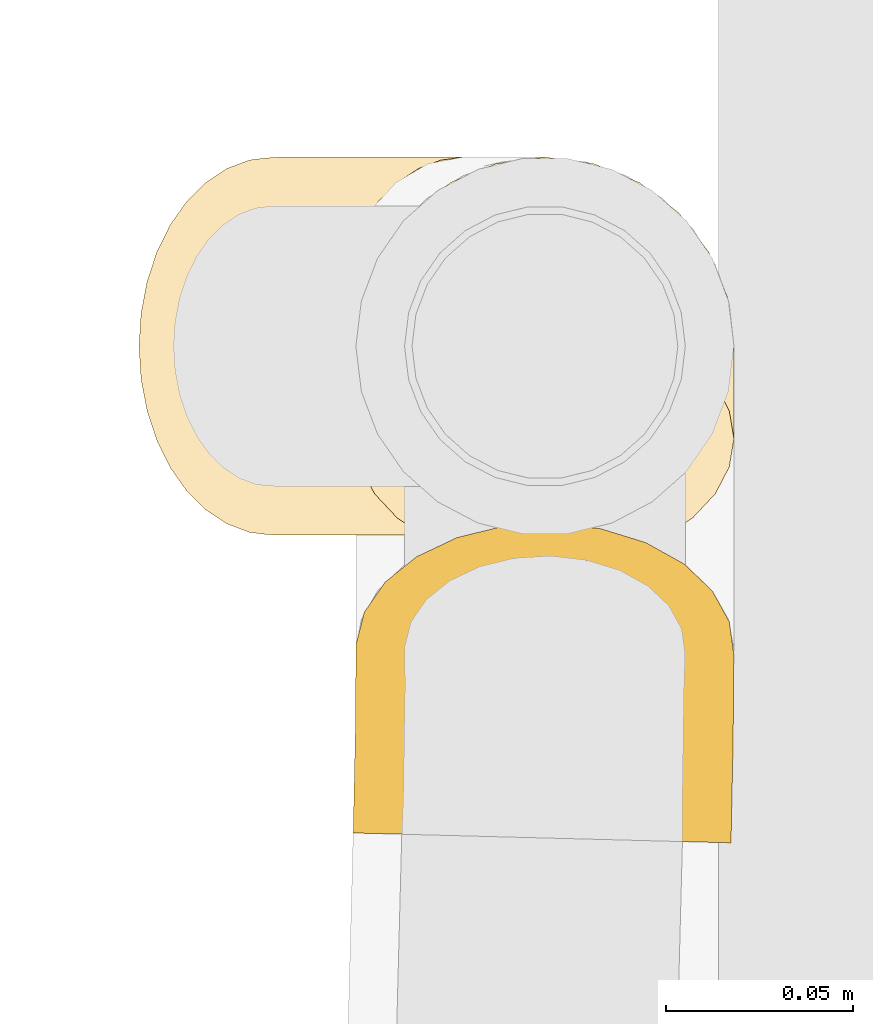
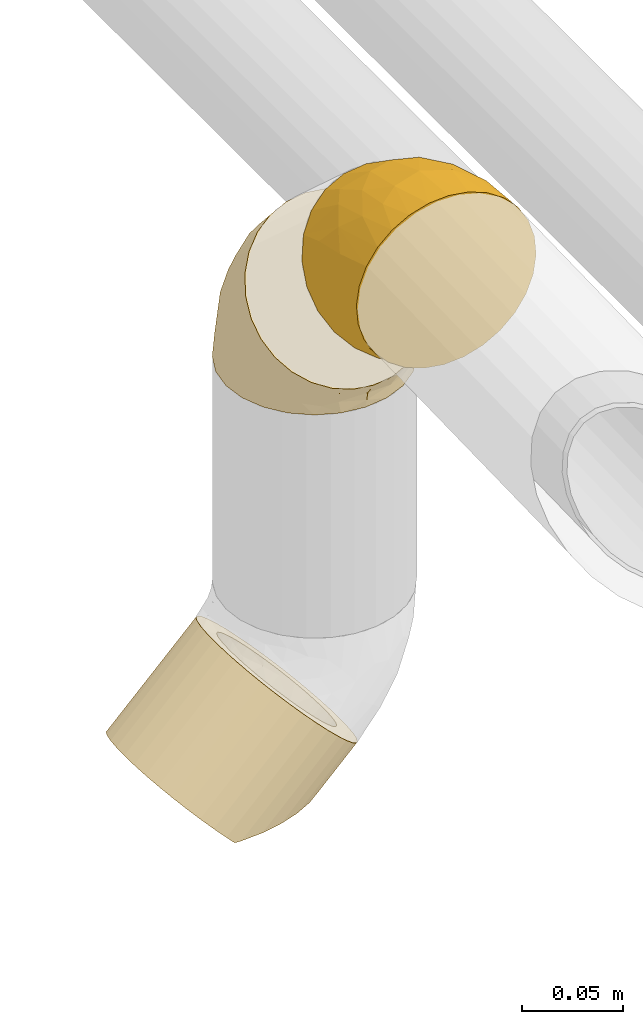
# One storey, part 39 of 156: 3 coverings.
"""IFC2X3 building model written with IfcOpenShell, lengths in millimetres."""

from ifc_helpers import new_model, entity, si_unit, converted_unit, derived_unit, direction, frame, origin_with_axes, place, context, subcontext, project, spatial, open_shell, faceted_brep, surface_model, source, transform, mapped, element, save


model = new_model("IFC2X3")

# Units and contexts
model_context = context("Model", 3, precision=0.01, world=frame((0.0, 4.29681676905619e-09, 0.0)), true_north=direction((4.01073788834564e-13, 1.0)))
plan_context = context("Plan", 3, precision=0.01, world=frame((0.0, 4.29681676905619e-09, 0.0)), true_north=direction((4.01073788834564e-13, 1.0)))
body_context = subcontext(model_context, "Body", "Model", "MODEL_VIEW")
ifc_project = project(units=[converted_unit("PLANEANGLEUNIT", "DEGREE", entity("IfcPositiveLengthMeasure", 0.0174532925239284), si_unit("PLANEANGLEUNIT", "RADIAN"), dimensions=[0, 0, 0, 0, 0, 0, 0]), si_unit("AREAUNIT", "SQUARE_METRE"), si_unit("LENGTHUNIT", "METRE", prefix="MILLI"), si_unit("MASSUNIT", "GRAM", prefix="KILO"), si_unit("POWERUNIT", "WATT"), si_unit("PRESSUREUNIT", "PASCAL", prefix="KILO"), si_unit("FORCEUNIT", "NEWTON", prefix="KILO"), si_unit("ELECTRICVOLTAGEUNIT", "VOLT"), si_unit("ELECTRICCURRENTUNIT", "AMPERE"), si_unit("THERMODYNAMICTEMPERATUREUNIT", "DEGREE_CELSIUS"), si_unit("TIMEUNIT", "SECOND"), si_unit("VOLUMEUNIT", "CUBIC_METRE"), derived_unit("LINEARVELOCITYUNIT", [(si_unit("LENGTHUNIT", "METRE"), 1), (si_unit("TIMEUNIT", "SECOND"), -1)]), derived_unit("VOLUMETRICFLOWRATEUNIT", [(si_unit("VOLUMEUNIT", "CUBIC_METRE"), 1), (si_unit("TIMEUNIT", "SECOND"), -1)]), derived_unit("THERMALTRANSMITTANCEUNIT", [(si_unit("POWERUNIT", "WATT"), 1), (si_unit("THERMODYNAMICTEMPERATUREUNIT", "KELVIN"), -1), (si_unit("AREAUNIT", "SQUARE_METRE"), -1)]), derived_unit("SOUNDPRESSUREUNIT", [(si_unit("PRESSUREUNIT", "PASCAL"), 1)])], contexts=[model_context, plan_context])

# Site, building, storey
site_placement = place(None, frame((0.0, -4.29681676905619e-09, 0.0), z_axis=(0.0, 0.0, 1.0), x_axis=(1.0, 0.0, 0.0)))
site = spatial("IfcSite", under=ifc_project, at=site_placement, CompositionType="ELEMENT")
building_placement = place(site_placement, frame((0.0, 4.29681676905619e-09, 0.0), z_axis=(0.0, 0.0, 1.0), x_axis=(1.0, 0.0, 0.0)))
building = spatial("IfcBuilding", under=site, at=building_placement, Name="mc-building", CompositionType="ELEMENT")
storey_placement = place(building_placement, frame((0.0, 0.0, 205200.0), z_axis=(0.0, 0.0, 1.0), x_axis=(1.0, 0.0, 0.0)))
storey = spatial("IfcBuildingStorey", under=building, at=storey_placement, Name="Nivå D + 1,2 m", CompositionType="ELEMENT", Elevation=205200.0)

# Coverings
shared_shape_1 = source(origin_with_axes(), body_context, "Body", "SurfaceModel", [
    surface_model("IfcShellBasedSurfaceModel", [(-14.21216, 57.73674, 11.24292), (-14.2142, 57.73858, -11.23089), (-15.15309, 58.58587, 0.0), (-6.9692, 51.20041, 31.49394), (-11.43748, 55.23276, 21.91909), (6.07652, 39.42744, 45.50245), (14.00003, 32.27696, 49.23533), (-1.03194, 45.8424, 39.48835), (22.33777, 24.75266, -50.5), (-6.97811, 51.20846, -31.47888), (-11.44294, 55.23768, -21.90382), (-1.04312, 45.85248, -39.47635), (6.06518, 39.43768, -45.49509), (13.9911, 32.28502, -49.23258), (22.33777, 24.75266, 50.5), (30.68443, 17.2203, 49.23258), (38.61035, 10.06765, 45.49509), (58.88769, -8.23142, -11.24292), (51.65365, -1.70313, 31.47888), (56.11847, -5.73236, 21.90382), (45.71865, 3.65284, 39.47635), (58.88973, -8.23326, 11.23089), (38.59901, 10.07788, -45.50245), (51.64474, -1.69509, -31.49394), (45.70747, 3.66293, -39.48835), (30.6755, 17.22836, -49.23533), (56.11301, -5.72744, -21.91909), (59.82862, -9.08055, 0.0), (-33.34172, 25.25, -43.73428), (-33.34172, 50.5, 0.0), (-33.34172, 48.77925, -13.07036), (-33.34172, 43.73428, -25.25), (-33.34172, 13.07036, 48.77925), (-33.34172, 35.70889, -35.70889), (-33.34172, 13.07036, -48.77925), (-33.34172, 48.77925, 13.07036), (-33.34172, 35.70889, 35.70889), (-33.34172, 43.73428, 25.25), (-33.34172, 25.25, 43.73428), (-33.34172, 0.0, 50.5), (-33.34172, 0.0, -50.5), (-33.34172, -35.70889, -35.70889), (-33.34172, -13.07036, -48.77925), (-33.34172, -25.25, -43.73428), (-33.34172, -25.25, 43.73428), (-33.34172, -43.73428, -25.25), (-33.34172, -48.77925, -13.07036), (-33.34172, -50.5, 0.0), (-33.34172, -35.70889, 35.70889), (-33.34172, -13.07036, 48.77925), (-33.34172, -43.73428, 25.25), (-33.34172, -48.77925, 13.07036), (28.92243, -17.8034, 34.63065), (1.20562, -45.65128, 0.0), (-0.61382, -45.20417, 9.59586), (-9.46137, -38.24931, 29.84171), (-7.16937, -44.13034, 18.54548), (15.53161, -33.29628, 25.112), (3.79099, -8.52759, 47.75959), (22.34991, -1.32639, 46.58985), (3.15449, -26.15535, 38.62048), (4.01451, -17.67675, 43.92184), (-14.7023, -18.81001, 46.08776), (33.08347, -31.47978, 0.0), (36.28244, -26.31967, 15.88754), (-12.6959, 2.89764, 50.5), (38.25088, -19.14275, 26.03364), (12.76677, -28.75917, 32.62983), (15.15633, -38.2489, 15.0781), (27.00146, -8.60124, 41.9572), (6.35461, 11.36666, 50.5), (-13.92723, 49.25426, 26.87553), (-11.64285, 42.23591, 35.7157), (-24.4333, 31.64829, 40.06434), (-15.96939, 17.35502, 48.28439), (-1.13508, 26.37007, 47.66853), (-13.49218, 31.14301, 42.76423), (-25.63247, 49.41514, 14.81209), (-23.38923, 52.61255, 0.0), (-28.36548, 51.55627, 0.0), (-18.24823, 52.20833, 16.68598), (-20.04632, 45.62317, 26.87553), (-23.68686, 23.31433, 45.25019), (-25.77538, 40.19806, 31.60803), (-25.92663, 45.58101, 23.5723), (-4.35741, 36.56369, 42.76423), (-19.27116, 55.59921, 0.0), (-18.59309, 37.84603, 36.37919), (-4.36667, 36.57591, -42.7546), (-11.65037, 42.24726, -35.70208), (-1.14417, 26.38063, -47.6637), (-20.04991, 45.63211, -26.86021), (-25.63296, 49.42073, -14.79417), (-18.25022, 52.21281, -16.67216), (-26.30966, 40.77939, -30.74245), (-12.6959, 2.89764, -50.5), (-13.49908, 31.15671, -42.7546), (-15.97704, 17.37143, -48.2789), (-24.12317, 32.59857, -39.38506), (-20.77243, 25.13196, -44.6609), (-19.09244, 39.10397, -35.02576), (-13.933, 49.26196, -26.86021), (-27.87896, 45.75604, -22.42031), (6.35461, 11.36666, -50.5), (-14.7023, -18.81001, -46.08776), (3.12687, -26.16383, -38.62165), (-9.47125, -38.2511, -29.84209), (28.91011, -17.7964, -34.6441), (26.99069, -8.59088, -41.96704), (4.01516, -17.67696, -43.9216), (12.76819, -28.74936, -32.63974), (-0.57123, -45.19209, -9.59829), (12.88928, 4.37142, -49.61481), (3.79099, -8.52759, -47.75959), (-7.15807, -44.128, -18.54513), (22.59597, 0.69753, -47.18135), (15.52696, -33.289, -25.12692), (15.1647, -38.23732, -15.10155), (36.27777, -26.31748, -15.90094), (38.24078, -19.13974, -26.04778)], [open_shell([[[0, 1, 2]], [[3, 0, 4]], [[5, 6, 7]], [[7, 6, 0]], [[0, 3, 7]], [[8, 0, 6]], [[0, 9, 10]], [[10, 1, 0]], [[11, 9, 12]], [[8, 13, 12]], [[9, 8, 12]], [[8, 9, 0]], [[6, 14, 8]], [[14, 15, 16]], [[17, 14, 16]], [[18, 19, 16]], [[16, 19, 17]], [[16, 20, 18]], [[17, 19, 21]], [[22, 23, 24]], [[23, 22, 25]], [[25, 14, 26]], [[23, 25, 26]], [[14, 17, 26]], [[21, 27, 17]], [[14, 25, 8]], [[28, 29, 30]], [[28, 30, 31]], [[29, 28, 32]], [[28, 31, 33]], [[32, 28, 34]], [[35, 36, 37]], [[36, 35, 32]], [[36, 32, 38]], [[35, 29, 32]], [[34, 39, 32]], [[34, 40, 39]], [[41, 40, 42]], [[41, 42, 43]], [[44, 41, 45]], [[41, 44, 39]], [[46, 47, 45]], [[44, 47, 48]], [[49, 39, 44]], [[50, 47, 51]], [[47, 50, 48]], [[45, 47, 44]], [[39, 40, 41]], [[52, 18, 20]], [[47, 53, 54]], [[50, 55, 48]], [[56, 57, 55]], [[15, 58, 59]], [[60, 61, 62]], [[63, 21, 64]], [[60, 44, 48]], [[49, 65, 39]], [[65, 49, 58]], [[44, 62, 49]], [[66, 57, 64]], [[55, 60, 48]], [[60, 67, 52]], [[64, 68, 63]], [[57, 56, 68]], [[52, 20, 69]], [[66, 64, 19]], [[66, 18, 52]], [[21, 63, 27]], [[61, 59, 58]], [[15, 59, 16]], [[50, 51, 56]], [[55, 57, 67]], [[69, 20, 16]], [[14, 70, 15]], [[70, 65, 58]], [[58, 15, 70]], [[60, 52, 69]], [[59, 69, 16]], [[61, 58, 62]], [[57, 68, 64]], [[56, 55, 50]], [[64, 21, 19]], [[56, 54, 68]], [[54, 51, 47]], [[68, 54, 63]], [[51, 54, 56]], [[63, 54, 53]], [[60, 62, 44]], [[58, 49, 62]], [[60, 69, 61]], [[59, 61, 69]], [[18, 66, 19]], [[66, 52, 67]], [[55, 67, 60]], [[66, 67, 57]], [[71, 72, 3]], [[32, 39, 65]], [[38, 73, 36]], [[74, 75, 76]], [[77, 78, 79]], [[4, 0, 80]], [[79, 35, 77]], [[79, 29, 35]], [[77, 81, 80]], [[76, 73, 82]], [[36, 73, 83]], [[83, 81, 84]], [[35, 37, 84]], [[32, 65, 74]], [[75, 74, 70]], [[72, 71, 81]], [[5, 7, 85]], [[5, 85, 75]], [[7, 3, 72]], [[14, 6, 70]], [[0, 86, 80]], [[37, 36, 83]], [[3, 4, 71]], [[32, 74, 82]], [[78, 77, 80]], [[70, 6, 75]], [[70, 74, 65]], [[81, 71, 80]], [[81, 83, 87]], [[85, 72, 76]], [[75, 85, 76]], [[5, 75, 6]], [[80, 71, 4]], [[72, 85, 7]], [[82, 73, 38]], [[76, 72, 87]], [[87, 83, 73]], [[81, 77, 84]], [[76, 87, 73]], [[81, 87, 72]], [[32, 82, 38]], [[76, 82, 74]], [[35, 84, 77]], [[37, 83, 84]], [[86, 0, 2]], [[86, 78, 80]], [[88, 89, 11]], [[13, 90, 12]], [[91, 92, 93]], [[30, 79, 92]], [[31, 94, 33]], [[40, 34, 95]], [[89, 88, 96]], [[97, 96, 90]], [[92, 78, 93]], [[33, 94, 98]], [[98, 96, 99]], [[2, 1, 86]], [[96, 98, 100]], [[1, 10, 93]], [[90, 88, 12]], [[9, 101, 10]], [[9, 11, 89]], [[30, 92, 102]], [[28, 33, 98]], [[101, 93, 10]], [[91, 101, 89]], [[99, 34, 28]], [[88, 11, 12]], [[13, 8, 103]], [[97, 103, 95]], [[95, 34, 97]], [[88, 90, 96]], [[102, 91, 94]], [[13, 103, 90]], [[89, 101, 9]], [[1, 93, 86]], [[93, 101, 91]], [[103, 97, 90]], [[102, 94, 31]], [[91, 89, 100]], [[100, 98, 94]], [[96, 97, 99]], [[91, 100, 94]], [[96, 100, 89]], [[30, 102, 31]], [[91, 102, 92]], [[34, 99, 97]], [[28, 98, 99]], [[93, 78, 86]], [[79, 30, 29]], [[79, 78, 92]], [[43, 42, 104]], [[105, 106, 41]], [[40, 95, 42]], [[107, 108, 24]], [[109, 105, 104]], [[105, 110, 106]], [[46, 111, 47]], [[95, 112, 113]], [[114, 46, 45]], [[108, 115, 22]], [[43, 105, 41]], [[45, 106, 114]], [[112, 115, 113]], [[25, 22, 115]], [[112, 95, 103]], [[114, 106, 116]], [[8, 25, 112]], [[41, 106, 45]], [[107, 24, 23]], [[117, 116, 118]], [[110, 105, 107]], [[113, 42, 95]], [[46, 114, 111]], [[108, 22, 24]], [[114, 116, 117]], [[26, 118, 119]], [[17, 27, 63]], [[17, 63, 118]], [[108, 109, 115]], [[110, 119, 116]], [[63, 53, 111]], [[17, 118, 26]], [[23, 26, 119]], [[112, 25, 115]], [[107, 105, 108]], [[104, 105, 43]], [[112, 103, 8]], [[63, 117, 118]], [[111, 114, 117]], [[63, 111, 117]], [[111, 53, 47]], [[42, 113, 104]], [[104, 113, 109]], [[115, 109, 113]], [[108, 105, 109]], [[116, 119, 118]], [[23, 119, 107]], [[119, 110, 107]], [[106, 110, 116]]])]),
])
covering_1_placement = place(storey_placement, frame((347962.03069, 461168.55164, 4269.91381999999), z_axis=(1.0, 0.0, 0.0), x_axis=(0.0, 0.0, 1.0)))
element("IfcCovering", 1, at=covering_1_placement, inside=storey, Name="BI17T - Cellegummi 13 mm SPV fett", PredefinedType="INSULATION", context=body_context, shape_type="MappedRepresentation", body=[
    mapped(shared_shape_1, transform((0.0, 0.0, 0.0), scale=1.0)),
])
shared_shape_2 = source(origin_with_axes(), body_context, "Body", "SurfaceModel", [
    surface_model("IfcShellBasedSurfaceModel", [(-11.58393, 55.87699, 11.24292), (-11.58577, 55.87902, -11.23089), (-12.43341, 56.81759, 0.0), (-5.04485, 48.63651, 31.49394), (-9.07889, 53.10325, 21.91909), (6.73306, 35.59525, 45.50245), (13.88655, 27.67445, 49.23533), (0.31541, 42.70128, 39.48835), (-5.0529, 48.64542, -31.47888), (-9.08382, 53.10871, -21.90382), (0.30532, 42.71245, -39.47635), (6.72282, 35.60658, -45.49509), (13.87848, 27.68338, -49.23258), (21.41401, 19.33957, -50.5), (21.41401, 19.33957, 50.5), (47.88091, -9.96628, 31.47888), (28.94953, 10.99576, 49.23258), (36.10519, 3.07255, 45.49509), (54.41378, -17.19989, 11.23089), (51.91183, -14.42958, 21.90382), (42.52269, -4.03331, 39.47635), (54.41194, -17.19785, -11.24292), (36.09495, 3.08389, -45.50245), (47.87286, -9.95737, -31.49394), (42.5126, -4.02214, -39.48835), (28.94146, 11.00469, -49.23533), (51.90691, -14.42412, -21.91909), (55.26143, -18.13845, 0.0), (-28.85444, 25.25, -43.73428), (-28.85444, 50.5, 0.0), (-28.85444, 48.77925, -13.07036), (-28.85444, 43.73428, -25.25), (-28.85444, 13.07036, 48.77925), (-28.85444, 35.70889, -35.70889), (-28.85444, 13.07036, -48.77925), (-28.85444, 48.77925, 13.07036), (-28.85444, 35.70889, 35.70889), (-28.85444, 43.73428, 25.25), (-28.85444, 25.25, 43.73428), (-28.85444, 0.0, 50.5), (-28.85444, 0.0, -50.5), (-28.85444, -35.70889, -35.70889), (-28.85444, -13.07036, -48.77925), (-28.85444, -25.25, -43.73428), (-28.85444, -25.25, 43.73428), (-28.85444, -43.73428, -25.25), (-28.85444, -48.77925, -13.07036), (-28.85444, -50.5, 0.0), (-28.85444, -35.70889, 35.70889), (-28.85444, -13.07036, 48.77925), (-28.85444, -43.73428, 25.25), (-28.85444, -48.77925, 13.07036), (25.99703, -22.11944, 34.85939), (1.56772, -46.7569, 0.0), (14.43845, -35.3902, 25.52218), (1.79972, -32.73809, 34.35406), (-7.30992, -40.48745, 27.30773), (30.17516, -35.75088, 0.0), (4.22961, -44.07654, 13.7674), (32.11233, -31.69491, 16.03951), (-4.95714, -7.24217, 49.36558), (12.09773, 3.21113, 49.91748), (-1.92427, 5.00167, 50.5), (9.22535, -21.47592, 41.53863), (13.61138, -8.08161, 47.06551), (-8.13538, -18.56536, 46.00306), (34.78482, -24.53447, 26.25239), (-21.87035, 50.56423, 9.56578), (-23.47301, 47.58914, 18.30444), (-17.86586, 49.96952, 16.68598), (-10.84824, 12.08074, 49.58783), (7.40121, 10.73079, 50.5), (-5.39451, 21.59804, 47.66853), (-7.00024, 32.43, 42.58209), (-18.0169, 29.34562, 41.97543), (-17.91593, 19.35085, 47.07305), (-21.22617, 42.85836, 28.09169), (-7.55759, 41.97318, 35.7157), (-14.04531, 46.15317, 27.16082), (-14.43003, 38.44507, 35.7157), (-21.59777, 36.84107, 35.25489), (-17.01093, 54.00539, 0.0), (-20.05725, 52.13388, 0.0), (-12.685, 3.00311, 50.5), (-23.57242, 51.48101, 0.0), (-2.79531, 34.54155, -42.7546), (-9.944, 40.56671, -35.70208), (-0.78514, 23.88602, -47.6637), (-22.20977, 48.44622, -16.78908), (-15.6977, 51.0436, -16.67216), (-24.45584, 51.31694, 0.0), (-15.38935, 2.50083, -50.5), (-22.97696, 44.37774, -25.10305), (-19.04105, 36.74531, -35.90999), (-11.23318, 30.21769, -42.7546), (-14.73177, 18.54529, -47.62164), (-19.45231, 26.01283, -43.80982), (7.40121, 10.73079, -50.5), (-17.05054, 45.00312, -26.86021), (-11.39892, 47.89927, -26.86021), (-1.92427, 5.00167, -50.5), (13.60673, -8.06863, -47.07082), (1.79381, -32.72707, -34.36723), (-4.95095, -7.23303, -49.3671), (25.99158, -22.10748, -34.87312), (-7.31837, -40.47966, -27.32204), (14.43391, -35.38253, -25.53719), (-8.1512, -18.55167, -46.01065), (9.2217, -21.46158, -41.54877), (12.09575, 3.21639, -49.91833), (32.10731, -31.69258, -16.05298), (4.20435, -44.08036, -13.77827), (34.77997, -24.52658, -26.2676)], [open_shell([[[0, 1, 2]], [[3, 0, 4]], [[5, 6, 7]], [[1, 0, 7]], [[0, 3, 7]], [[1, 7, 6]], [[1, 8, 9]], [[1, 6, 8]], [[10, 8, 11]], [[12, 11, 8]], [[13, 12, 8]], [[6, 13, 8]], [[6, 14, 13]], [[15, 14, 16]], [[15, 16, 17]], [[15, 18, 14]], [[19, 18, 15]], [[15, 17, 20]], [[18, 21, 13]], [[22, 23, 24]], [[22, 25, 13]], [[21, 23, 22]], [[26, 23, 21]], [[21, 22, 13]], [[18, 27, 21]], [[13, 14, 18]], [[28, 29, 30]], [[28, 30, 31]], [[29, 28, 32]], [[28, 31, 33]], [[32, 28, 34]], [[35, 36, 37]], [[36, 35, 32]], [[36, 32, 38]], [[35, 29, 32]], [[34, 39, 32]], [[34, 40, 39]], [[41, 40, 42]], [[41, 42, 43]], [[44, 41, 45]], [[41, 44, 39]], [[46, 47, 45]], [[44, 47, 48]], [[49, 39, 44]], [[50, 47, 51]], [[47, 50, 48]], [[45, 47, 44]], [[39, 40, 41]], [[20, 52, 15]], [[51, 47, 53]], [[54, 55, 56]], [[53, 57, 58]], [[55, 44, 48]], [[59, 54, 58]], [[60, 61, 62]], [[63, 64, 65]], [[60, 39, 49]], [[65, 64, 60]], [[50, 51, 58]], [[55, 52, 63]], [[54, 52, 55]], [[63, 65, 44]], [[59, 58, 57]], [[57, 18, 59]], [[19, 15, 66]], [[19, 66, 59]], [[16, 61, 64]], [[27, 18, 57]], [[20, 63, 52]], [[59, 66, 54]], [[58, 54, 56]], [[61, 14, 62]], [[17, 16, 64]], [[63, 17, 64]], [[56, 48, 50]], [[44, 55, 63]], [[17, 63, 20]], [[51, 53, 58]], [[52, 66, 15]], [[19, 59, 18]], [[49, 44, 65]], [[66, 52, 54]], [[39, 60, 62]], [[49, 65, 60]], [[48, 56, 55]], [[58, 56, 50]], [[64, 61, 60]], [[14, 61, 16]], [[67, 68, 69]], [[70, 62, 71]], [[72, 73, 74]], [[74, 75, 72]], [[69, 68, 76]], [[77, 73, 7]], [[78, 76, 79]], [[74, 73, 79]], [[79, 76, 80]], [[0, 2, 81]], [[71, 14, 6]], [[35, 68, 67]], [[3, 4, 78]], [[74, 79, 80]], [[3, 77, 7]], [[69, 78, 4]], [[74, 36, 38]], [[72, 6, 5]], [[7, 73, 5]], [[75, 70, 72]], [[4, 0, 69]], [[79, 77, 78]], [[67, 81, 82]], [[72, 70, 71]], [[78, 77, 3]], [[0, 81, 69]], [[68, 37, 76]], [[73, 77, 79]], [[69, 76, 78]], [[72, 71, 6]], [[80, 37, 36]], [[5, 73, 72]], [[38, 32, 75]], [[32, 39, 83]], [[67, 82, 84]], [[84, 29, 35]], [[37, 68, 35]], [[67, 69, 81]], [[35, 67, 84]], [[37, 80, 76]], [[74, 80, 36]], [[38, 75, 74]], [[70, 32, 83]], [[32, 70, 75]], [[62, 70, 83]], [[85, 86, 10]], [[12, 87, 11]], [[88, 82, 89]], [[30, 90, 88]], [[34, 91, 40]], [[33, 92, 93]], [[94, 95, 96]], [[12, 13, 97]], [[93, 98, 86]], [[88, 89, 98]], [[92, 88, 98]], [[91, 34, 95]], [[1, 9, 89]], [[33, 31, 92]], [[8, 99, 9]], [[8, 10, 86]], [[92, 30, 88]], [[33, 93, 96]], [[99, 89, 9]], [[98, 99, 86]], [[87, 95, 94]], [[85, 10, 11]], [[100, 87, 97]], [[87, 12, 97]], [[100, 95, 87]], [[85, 87, 94]], [[93, 86, 94]], [[86, 99, 8]], [[96, 34, 28]], [[89, 81, 1]], [[93, 94, 96]], [[95, 100, 91]], [[81, 89, 82]], [[81, 2, 1]], [[89, 99, 98]], [[87, 85, 11]], [[86, 85, 94]], [[93, 92, 98]], [[30, 92, 31]], [[90, 30, 29]], [[90, 82, 88]], [[34, 96, 95]], [[96, 28, 33]], [[25, 22, 101]], [[43, 102, 41]], [[100, 103, 40]], [[104, 24, 23]], [[105, 102, 106]], [[107, 101, 108]], [[47, 46, 53]], [[103, 100, 109]], [[110, 111, 106]], [[104, 112, 106]], [[108, 102, 43]], [[45, 105, 111]], [[43, 42, 107]], [[105, 41, 102]], [[103, 109, 101]], [[110, 112, 26]], [[108, 101, 22]], [[53, 46, 111]], [[108, 22, 24]], [[112, 104, 23]], [[102, 104, 106]], [[104, 108, 24]], [[111, 110, 57]], [[112, 23, 26]], [[21, 27, 57]], [[111, 57, 53]], [[21, 57, 110]], [[112, 110, 106]], [[107, 108, 43]], [[21, 110, 26]], [[107, 103, 101]], [[109, 13, 25]], [[45, 111, 46]], [[108, 104, 102]], [[107, 42, 103]], [[40, 103, 42]], [[111, 105, 106]], [[41, 105, 45]], [[13, 109, 100]], [[101, 109, 25]]])]),
])
covering_2_placement = place(storey_placement, frame((347962.03069, 461066.05164, 4362.41381999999), z_axis=(0.999238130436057, -0.0261470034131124, -0.0289740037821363), x_axis=(2.15974307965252e-07, -0.742392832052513, 0.669964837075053)))
element("IfcCovering", 2, at=covering_2_placement, inside=storey, Name="BI17T - Cellegummi 13 mm SPV fett", PredefinedType="INSULATION", context=body_context, shape_type="MappedRepresentation", body=[
    mapped(shared_shape_2, transform((0.0, 0.0, 0.0), scale=1.0)),
])
covering_3_placement = place(storey_placement, frame((347889.30448, 461168.55904, 3998.22696), z_axis=(-0.707106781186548, 0.0, 0.707106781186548), x_axis=(0.707106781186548, 0.0, 0.707106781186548)))
element("IfcCovering", 3, at=covering_3_placement, inside=storey, Name="BI17T - Cellegummi 13 mm SPV fett", PredefinedType="INSULATION", context=body_context, shape_type="Brep", body=[
    faceted_brep([(9.01926387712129, 36.9302907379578, -6.51180666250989), (2.5074572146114, 37.5, 0.0), (72.4, 37.5, 0.0), (72.4, 36.9302907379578, -6.51180666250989), (15.333212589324, 35.2384732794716, -12.8257553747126), (72.4, 35.2384732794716, -12.8257553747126), (21.2574572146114, 32.4759526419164, -18.75), (72.4, 32.4759526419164, -18.75), (26.6119925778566, 28.7266666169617, -24.1045353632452), (72.4, 28.7266666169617, -24.1045353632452), (31.2341238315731, 24.1045353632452, -28.7266666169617), (72.4, 24.1045353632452, -28.7266666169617), (34.9834098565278, 18.75, -32.4759526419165), (72.4, 18.75, -32.4759526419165), (37.745930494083, 12.8257553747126, -35.2384732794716), (72.4, 12.8257553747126, -35.2384732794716), (39.4377479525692, 6.51180666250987, -36.9302907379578), (72.4, 6.51180666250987, -36.9302907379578), (40.0074572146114, -6.88863824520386e-15, -37.5), (72.4, -6.88863824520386e-15, -37.5), (39.4377479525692, -6.51180666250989, -36.9302907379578), (72.4, -6.51180666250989, -36.9302907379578), (37.745930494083, -12.8257553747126, -35.2384732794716), (72.4, -12.8257553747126, -35.2384732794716), (34.9834098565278, -18.75, -32.4759526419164), (72.4, -18.75, -32.4759526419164), (31.2341238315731, -24.1045353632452, -28.7266666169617), (72.4, -24.1045353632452, -28.7266666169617), (26.6119925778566, -28.7266666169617, -24.1045353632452), (72.4, -28.7266666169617, -24.1045353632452), (21.2574572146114, -32.4759526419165, -18.75), (72.4, -32.4759526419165, -18.75), (15.333212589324, -35.2384732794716, -12.8257553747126), (72.4, -35.2384732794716, -12.8257553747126), (9.01926387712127, -36.9302907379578, -6.51180666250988), (72.4, -36.9302907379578, -6.51180666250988), (2.5074572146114, -37.5, 4.59242549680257e-15), (72.4, -37.5, 4.59242549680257e-15), (0.0, -37.2806259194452, 2.50745721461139), (72.4, -36.9302907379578, 6.5118066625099), (0.0, -36.9302907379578, 6.5118066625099), (72.4, -35.2384732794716, 12.8257553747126), (0.0, -35.2384732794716, 12.8257553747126), (72.4, -32.4759526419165, 18.75), (0.0, -32.4759526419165, 18.75), (72.4, -28.7266666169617, 24.1045353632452), (0.0, -28.7266666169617, 24.1045353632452), (72.4, -24.1045353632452, 28.7266666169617), (0.0, -24.1045353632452, 28.7266666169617), (72.4, -18.75, 32.4759526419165), (0.0, -18.75, 32.4759526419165), (72.4, -12.8257553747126, 35.2384732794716), (0.0, -12.8257553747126, 35.2384732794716), (72.4, -6.51180666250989, 36.9302907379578), (0.0, -6.51180666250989, 36.9302907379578), (72.4, 2.29621274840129e-15, 37.5), (0.0, 2.29621274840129e-15, 37.5), (72.4, 6.51180666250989, 36.9302907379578), (0.0, 6.51180666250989, 36.9302907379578), (72.4, 12.8257553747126, 35.2384732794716), (0.0, 12.8257553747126, 35.2384732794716), (72.4, 18.75, 32.4759526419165), (0.0, 18.75, 32.4759526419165), (72.4, 24.1045353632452, 28.7266666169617), (0.0, 24.1045353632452, 28.7266666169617), (72.4, 28.7266666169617, 24.1045353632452), (0.0, 28.7266666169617, 24.1045353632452), (72.4, 32.4759526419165, 18.75), (0.0, 32.4759526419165, 18.75), (72.4, 35.2384732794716, 12.8257553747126), (0.0, 35.2384732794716, 12.8257553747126), (72.4, 36.9302907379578, 6.51180666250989), (0.0, 36.9302907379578, 6.51180666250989), (0.0, 37.2806259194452, 2.5074572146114), (2.5074572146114, 50.5, 0.0), (11.2766901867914, 49.7327915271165, -8.76923297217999), (72.4, 49.7327915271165, -8.76923297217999), (72.4, 50.5, 0.0), (0.0, 50.2806259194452, 2.50745721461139), (72.4, 49.7327915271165, 8.76923297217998), (0.0, 49.7327915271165, 8.76923297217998), (72.4, 47.4544773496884, 17.2720172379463), (0.0, 47.4544773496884, 17.2720172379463), (72.4, 43.7342828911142, 25.25), (0.0, 43.7342828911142, 25.25), (72.4, 38.6852443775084, 32.4607742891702), (0.0, 38.6852443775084, 32.4607742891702), (72.4, 32.4607742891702, 38.6852443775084), (0.0, 32.4607742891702, 38.6852443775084), (72.4, 25.25, 43.7342828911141), (0.0, 25.25, 43.7342828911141), (72.4, 17.2720172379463, 47.4544773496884), (0.0, 17.2720172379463, 47.4544773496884), (72.4, 8.76923297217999, 49.7327915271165), (0.0, 8.76923297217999, 49.7327915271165), (72.4, 3.09223316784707e-15, 50.5), (0.0, 3.09223316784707e-15, 50.5), (72.4, -8.76923297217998, 49.7327915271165), (0.0, -8.76923297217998, 49.7327915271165), (72.4, -17.2720172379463, 47.4544773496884), (0.0, -17.2720172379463, 47.4544773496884), (72.4, -25.25, 43.7342828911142), (0.0, -25.25, 43.7342828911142), (72.4, -32.4607742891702, 38.6852443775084), (0.0, -32.4607742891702, 38.6852443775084), (72.4, -38.6852443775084, 32.4607742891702), (0.0, -38.6852443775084, 32.4607742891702), (72.4, -43.7342828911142, 25.25), (0.0, -43.7342828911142, 25.25), (72.4, -47.4544773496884, 17.2720172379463), (0.0, -47.4544773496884, 17.2720172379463), (72.4, -49.7327915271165, 8.76923297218), (0.0, -49.7327915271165, 8.76923297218), (2.50745721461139, -50.5, 6.18446633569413e-15), (0.0, -50.2806259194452, 2.5074572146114), (72.4, -50.5, 6.18446633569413e-15), (11.2766901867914, -49.7327915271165, -8.76923297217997), (72.4, -49.7327915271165, -8.76923297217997), (19.7794744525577, -47.4544773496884, -17.2720172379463), (72.4, -47.4544773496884, -17.2720172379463), (27.7574572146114, -43.7342828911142, -25.25), (72.4, -43.7342828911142, -25.25), (34.9682315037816, -38.6852443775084, -32.4607742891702), (72.4, -38.6852443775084, -32.4607742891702), (41.1927015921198, -32.4607742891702, -38.6852443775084), (72.4, -32.4607742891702, -38.6852443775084), (46.2417401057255, -25.25, -43.7342828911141), (72.4, -25.25, -43.7342828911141), (49.9619345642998, -17.2720172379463, -47.4544773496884), (72.4, -17.2720172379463, -47.4544773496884), (52.2402487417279, -8.76923297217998, -49.7327915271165), (72.4, -8.76923297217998, -49.7327915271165), (53.0074572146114, -9.2766995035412e-15, -50.5), (72.4, -9.2766995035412e-15, -50.5), (52.2402487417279, 8.76923297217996, -49.7327915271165), (72.4, 8.76923297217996, -49.7327915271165), (49.9619345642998, 17.2720172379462, -47.4544773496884), (72.4, 17.2720172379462, -47.4544773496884), (46.2417401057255, 25.25, -43.7342828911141), (72.4, 25.25, -43.7342828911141), (41.1927015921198, 32.4607742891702, -38.6852443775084), (72.4, 32.4607742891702, -38.6852443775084), (34.9682315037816, 38.6852443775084, -32.4607742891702), (72.4, 38.6852443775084, -32.4607742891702), (27.7574572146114, 43.7342828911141, -25.25), (72.4, 43.7342828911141, -25.25), (19.7794744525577, 47.4544773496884, -17.2720172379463), (72.4, 47.4544773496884, -17.2720172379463)], [[[0, 1, 2, 3]], [[4, 0, 3, 5]], [[6, 4, 5, 7]], [[8, 6, 7, 9]], [[10, 8, 9, 11]], [[12, 10, 11, 13]], [[14, 12, 13, 15]], [[16, 14, 15, 17]], [[18, 16, 17, 19]], [[20, 18, 19, 21]], [[22, 20, 21, 23]], [[24, 22, 23, 25]], [[26, 24, 25, 27]], [[28, 26, 27, 29]], [[30, 28, 29, 31]], [[32, 30, 31, 33]], [[34, 32, 33, 35]], [[36, 34, 35, 37]], [[38, 36, 37, 39, 40]], [[40, 39, 41, 42]], [[42, 41, 43, 44]], [[44, 43, 45, 46]], [[46, 45, 47, 48]], [[48, 47, 49, 50]], [[50, 49, 51, 52]], [[52, 51, 53, 54]], [[54, 53, 55, 56]], [[56, 55, 57, 58]], [[58, 57, 59, 60]], [[60, 59, 61, 62]], [[62, 61, 63, 64]], [[64, 63, 65, 66]], [[66, 65, 67, 68]], [[68, 67, 69, 70]], [[70, 69, 71, 72]], [[1, 73, 72, 71, 2]], [[74, 75, 76, 77]], [[78, 74, 77, 79, 80]], [[80, 79, 81, 82]], [[82, 81, 83, 84]], [[84, 83, 85, 86]], [[86, 85, 87, 88]], [[88, 87, 89, 90]], [[90, 89, 91, 92]], [[92, 91, 93, 94]], [[94, 93, 95, 96]], [[96, 95, 97, 98]], [[98, 97, 99, 100]], [[100, 99, 101, 102]], [[102, 101, 103, 104]], [[104, 103, 105, 106]], [[106, 105, 107, 108]], [[108, 107, 109, 110]], [[110, 109, 111, 112]], [[113, 114, 112, 111, 115]], [[116, 113, 115, 117]], [[118, 116, 117, 119]], [[120, 118, 119, 121]], [[122, 120, 121, 123]], [[124, 122, 123, 125]], [[126, 124, 125, 127]], [[128, 126, 127, 129]], [[130, 128, 129, 131]], [[132, 130, 131, 133]], [[134, 132, 133, 135]], [[136, 134, 135, 137]], [[138, 136, 137, 139]], [[140, 138, 139, 141]], [[142, 140, 141, 143]], [[144, 142, 143, 145]], [[146, 144, 145, 147]], [[75, 146, 147, 76]], [[114, 38, 40, 42, 44, 46, 48, 50, 52, 54, 56, 58, 60, 62, 64, 66, 68, 70, 72, 73, 78, 80, 82, 84, 86, 88, 90, 92, 94, 96, 98, 100, 102, 104, 106, 108, 110, 112]], [[77, 76, 147, 145, 143, 141, 139, 137, 135, 133, 131, 129, 127, 125, 123, 121, 119, 117, 115, 111, 109, 107, 105, 103, 101, 99, 97, 95, 93, 91, 89, 87, 85, 83, 81, 79], [2, 71, 69, 67, 65, 63, 61, 59, 57, 55, 53, 51, 49, 47, 45, 43, 41, 39, 37, 35, 33, 31, 29, 27, 25, 23, 21, 19, 17, 15, 13, 11, 9, 7, 5, 3]], [[4, 6, 8, 10, 12, 14, 16, 18, 20, 22, 24, 26, 28, 30, 32, 34, 36, 38, 114, 113, 116, 118, 120, 122, 124, 126, 128, 130, 132, 134, 136, 138, 140, 142, 144, 146, 75, 74, 78, 73, 1, 0]]], orient=[[False], [False], [False], [False], [False], [False], [False], [False], [False], [False], [False], [False], [False], [False], [False], [False], [False], [False], [False], [False], [False], [False], [False], [False], [False], [False], [False], [False], [False], [False], [False], [False], [False], [False], [False], [False], [False], [False], [False], [False], [False], [False], [False], [False], [False], [False], [False], [False], [False], [False], [False], [False], [False], [False], [False], [False], [False], [False], [False], [False], [False], [False], [False], [False], [False], [False], [False], [False], [False], [False], [False], [False], [False], [False, False], [False]]),
])

save(model, "model.ifc")
